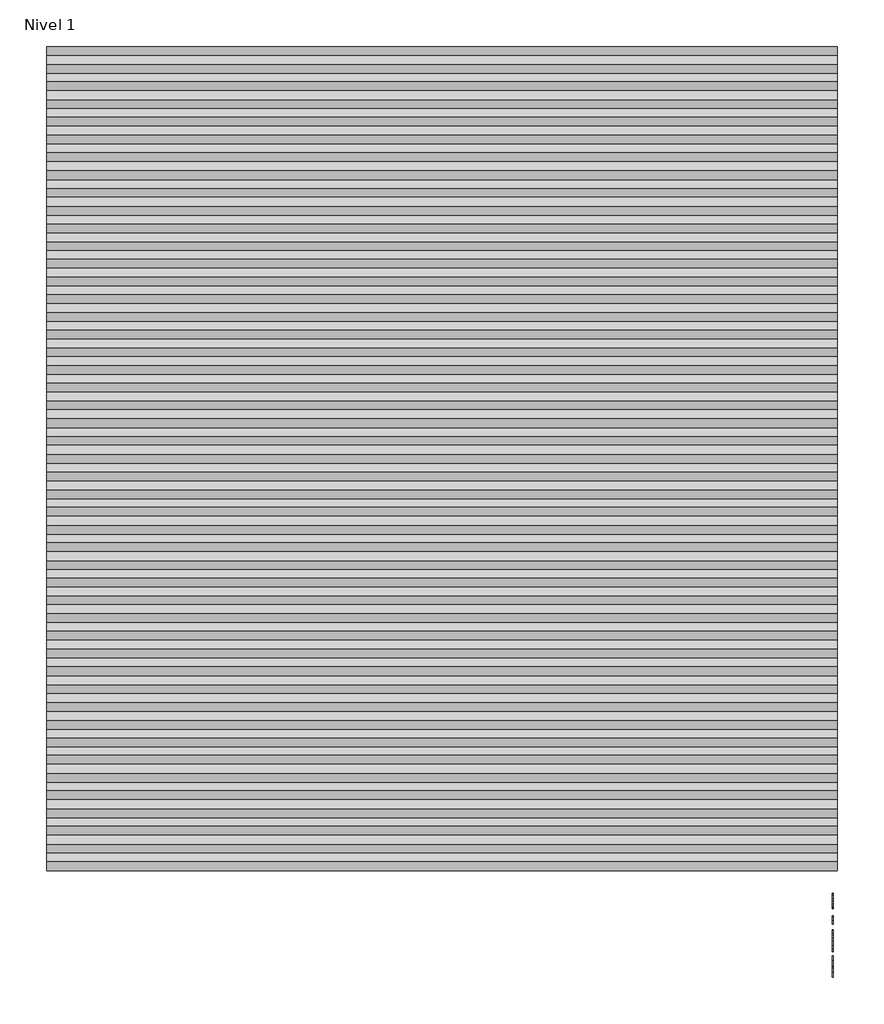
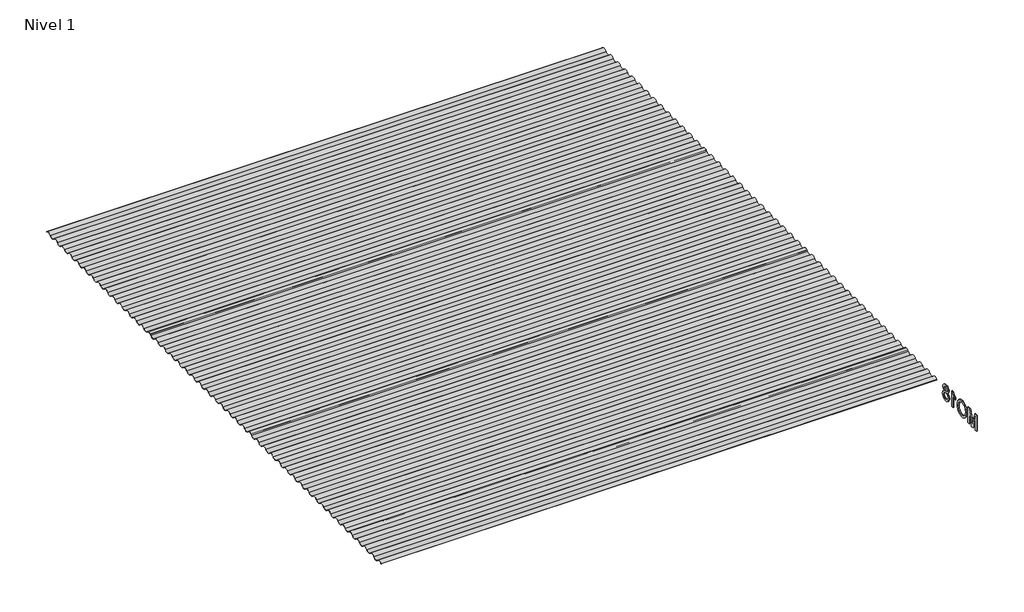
# One storey: 4 plates, 1 proxy.
"""IFC4 building model written with IfcOpenShell, lengths in millimetres."""

from ifc_helpers import new_model, si_unit, frame, origin, place, context, project, spatial, polyline, outline, extrude, transform, mapped, element, save
from components import plate_054f46e9, plate_82deaa4b

model = new_model("IFC4")

# Units and contexts
model_context = context("Model", 3, world=origin())
ifc_project = project(units=[si_unit("LENGTHUNIT", "METRE", prefix="MILLI")], contexts=[model_context])

# Site, building, storey
site = spatial("IfcSite", under=ifc_project)
building = spatial("IfcBuilding", under=site)
storey = spatial("IfcBuildingStorey", under=building, Name="Nivel 1", Elevation=0.0)

# Proxy
placement = place(None, origin())
element("IfcBuildingElementProxy", 1, Name="100mm Arial", ObjectType="100mm Arial", at=placement, inside=storey, context=model_context, shape_type="SweptSolid", body=[
    extrude(outline(polyline([(14825.7599352, -1567.141573), (14825.7599352, -1466.6852629), (14847.3668711, -1466.6852629), (14867.9192119, -1537.4902842), (14872.0640157, -1552.2791404), (14876.552176, -1536.2640109), (14896.7611603, -1466.6852629), (14918.3680961, -1466.6852629), (14918.3680961, -1567.141573), (14905.8110574, -1567.141573), (14905.8110574, -1479.2423016), (14880.5743525, -1567.141573), (14863.5536789, -1567.141573), (14838.316974, -1479.2423016), (14838.316974, -1567.141573), (14825.7599352, -1567.141573)])), frame((9557.0230098, 0.0, 0.0), z_axis=(1.0, 0.0, 0.0), x_axis=(0.0, 1.0, 0.0)), (0.0, 0.0, 1.0), 5.0),
    extrude(outline(polyline([(14935.6340244, -1518.2377931), (14938.9817506, -1496.023852), (14949.0249291, -1479.2177762), (14964.3594769, -1468.6411688), (14983.5813112, -1465.115633), (14996.7576179, -1466.771102), (15008.5727614, -1471.7375089), (15018.3829479, -1479.6653659), (15025.5443841, -1490.2051851), (15029.9221798, -1502.848063), (15031.3814451, -1517.0850962), (15029.8455377, -1531.5122018), (15025.2378157, -1544.3328893), (15017.8127308, -1554.8911026), (15007.8247346, -1562.5307854), (14996.1107588, -1567.1660985), (14983.5077348, -1568.7112029), (14970.1290929, -1567.0036173), (14958.2465044, -1561.8808605), (14948.4608433, -1553.8058507), (14941.3729836, -1543.2415061), (14935.6340244, -1518.2377931)]), holes=[polyline([(14948.1910632, -1518.3604205), (14950.7018578, -1534.075113), (14958.2342417, -1546.049672), (14969.5558101, -1553.6280411), (14983.4341584, -1556.1541641), (14997.5148417, -1553.6035156), (15008.8548042, -1545.9515701), (15016.3320058, -1533.6091292), (15018.8244063, -1516.9869944), (15014.5569751, -1496.2629753), (15002.0857755, -1482.5409769), (14983.6548876, -1477.6726718), (14970.147487, -1480.0179195), (14958.6634373, -1487.0536627), (14950.8091568, -1499.5708476), (14948.1910632, -1518.3604205)])]), frame((9557.0230098, 0.0, 0.0), z_axis=(1.0, 0.0, 0.0), x_axis=(0.0, 1.0, 0.0)), (0.0, 0.0, 1.0), 5.0),
    extrude(outline(polyline([(15091.0273792, -1567.141573), (15078.4703404, -1567.141573), (15078.4703404, -1488.8562845), (15066.5754893, -1497.3298331), (15053.3562629, -1503.6696661), (15053.3562629, -1491.7993404), (15071.7626254, -1480.051642), (15082.9339753, -1466.6852629), (15091.0273792, -1466.6852629), (15091.0273792, -1567.141573)])), frame((9557.0230098, 0.0, 0.0), z_axis=(1.0, 0.0, 0.0), x_axis=(0.0, 1.0, 0.0)), (0.0, 0.0, 1.0), 5.0),
    extrude(outline(polyline([(15139.1463442, -1511.812121), (15127.7052141, -1504.0130227), (15123.989606, -1491.8729168), (15126.012957, -1482.0565989), (15132.0830099, -1473.9448009), (15141.5191831, -1468.5001474), (15153.6408948, -1466.6852629), (15165.8361829, -1468.543067), (15175.3949834, -1474.1164792), (15181.575401, -1482.3570359), (15183.6355401, -1492.2162733), (15179.9689829, -1504.0498109), (15168.8466839, -1511.812121), (15182.2008004, -1521.6590957), (15186.7747998, -1537.9072171), (15184.5061942, -1549.9124329), (15177.7003773, -1559.8329841), (15167.1912149, -1566.4916482), (15153.8125731, -1568.7112029), (15140.4339312, -1566.4824511), (15129.9247688, -1559.7961959), (15123.1189519, -1549.7806085), (15120.8503463, -1537.5638606), (15125.6082868, -1520.9355944), (15139.1463442, -1511.812121)]), holes=[polyline([(15133.4073851, -1537.1224022), (15135.5043124, -1546.5769695), (15142.923266, -1553.6525665), (15153.9106749, -1556.1541641), (15162.4577999, -1554.838986), (15168.8712094, -1550.8934516), (15174.2177611, -1537.5148097), (15168.6995311, -1523.8786504), (15162.1389689, -1519.8319485), (15153.493742, -1518.4830478), (15145.0661786, -1519.8135544), (15138.7171485, -1523.805074), (15133.4073851, -1537.1224022)]), polyline([(15136.5466447, -1492.2407988), (15140.9980169, -1502.1000363), (15153.9597259, -1505.926009), (15166.6639174, -1502.1245617), (15171.0785014, -1492.8048845), (15166.5167646, -1483.1541135), (15153.8125731, -1479.2423016), (15141.0715933, -1483.0682744), (15136.5466447, -1492.2407988)])]), frame((9557.0230098, 0.0, 0.0), z_axis=(1.0, 0.0, 0.0), x_axis=(0.0, 1.0, 0.0)), (0.0, 0.0, 1.0), 5.0),
])

# Plates
plate_shape = plate_054f46e9(model_context)
element("IfcPlate", 2, ObjectType="HIANSA- H20.F08.001-CHAPA PERFILADA CUBIERTA - MO18 - Panel de Muro Cortina : -", at=placement, inside=storey, context=model_context, shape_type="MappedRepresentation", body=[
    mapped(plate_shape, transform((9579.0356399, 18266.3330794, -1529.5962409), x_axis=(0.0, -1.0, 0.0), y_axis=(0.0, 0.0, 1.0), z_axis=(-1.0, 0.0, 0.0))),
])
element("IfcPlate", 3, ObjectType="HIANSA- H20.F08.001-CHAPA PERFILADA CUBIERTA - MO18 - Panel de Muro Cortina : -", at=placement, inside=storey, context=model_context, shape_type="MappedRepresentation", body=[
    mapped(plate_shape, transform((9579.0356399, 17202.3330793, -1529.5962409), x_axis=(0.0, -1.0, 0.0), y_axis=(0.0, 0.0, 1.0), z_axis=(-1.0, 0.0, 0.0))),
])
element("IfcPlate", 4, ObjectType="HIANSA- H20.F08.001-CHAPA PERFILADA CUBIERTA - MO18 - Panel de Muro Cortina : -", at=placement, inside=storey, context=model_context, shape_type="MappedRepresentation", body=[
    mapped(plate_shape, transform((9579.0356399, 16138.3330793, -1529.5962409), x_axis=(0.0, -1.0, 0.0), y_axis=(0.0, 0.0, 1.0), z_axis=(-1.0, 0.0, 0.0))),
])
plate_2_shape = plate_82deaa4b(model_context)
element("IfcPlate", 5, ObjectType="HIANSA- H20.F08.001-CHAPA PERFILADA CUBIERTA - MO18 - Panel de Muro Cortina : -", at=placement, inside=storey, context=model_context, shape_type="MappedRepresentation", body=[
    mapped(plate_2_shape, transform((9579.0356399, 15452.3330794, -1529.5962409), x_axis=(0.0, -1.0, 0.0), y_axis=(0.0, 0.0, 1.0), z_axis=(-1.0, 0.0, 0.0))),
])

save(model, "model.ifc")
